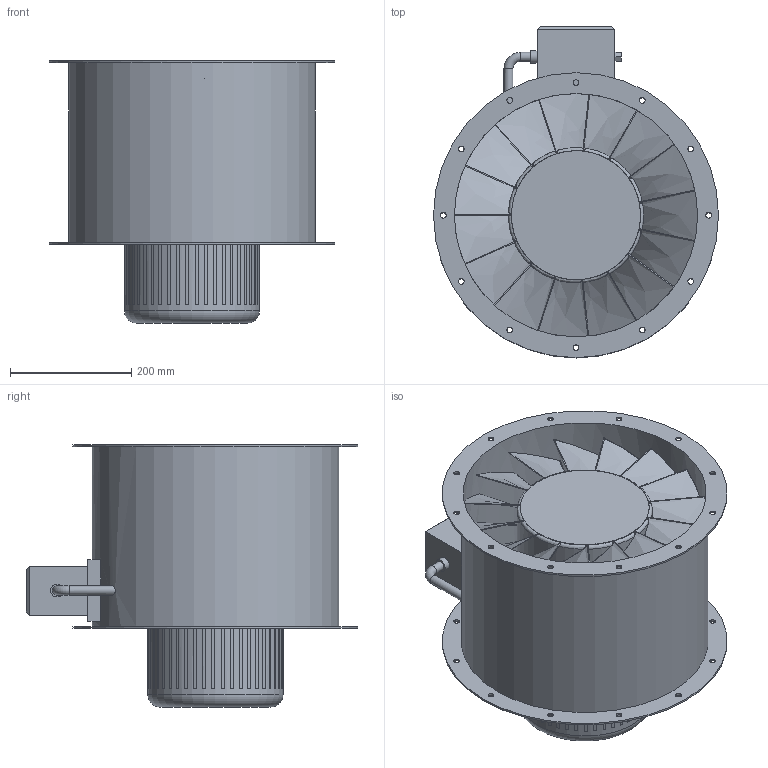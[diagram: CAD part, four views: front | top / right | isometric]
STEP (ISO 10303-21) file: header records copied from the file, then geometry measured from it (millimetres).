
FILE_DESCRIPTION(/* description */ (''),/* implementation_level */ '2;1');
FILE_NAME(/* name */ 'Z:\Output\AMD_400-4-2_0.4-1.9-03101-030.stp',/* time_stamp */ '2021-12-10T17:05:03+01:00',/* author */ ('engineering1'),/* organization */ (''),/* preprocessor_version */ 'ST-DEVELOPER v17.2',/* originating_system */ 'Autodesk Inventor 2019',/* authorisation */ '');
FILE_SCHEMA (('AUTOMOTIVE_DESIGN { 1 0 10303 214 3 1 1 }'));
Length unit declared in the file: millimetre
Products named in the file (1): AMD W
Bounding box: 471 x 548.5 x 433 mm (x, y, z)
Volume: 19241816.1 mm3; surface area: 2034936.1 mm2
Topology: 43 solids, 43 shells, 442 faces, 1045 edges, 661 vertices
Faces by surface type: plane 239, cylinder 141, bspline 45, torus 17
Full cylindrical faces by diameter (mm): 9.5 x24, 15 x3, 21 x1, 223.333 x1, 402 x1, 408 x1, 471 x2
Entity records: 14002 total; most frequent: CARTESIAN_POINT 3964, ORIENTED_EDGE 2090, DIRECTION 1926, EDGE_CURVE 1045, AXIS2_PLACEMENT_3D 697, VERTEX_POINT 661, LINE 532, VECTOR 532
